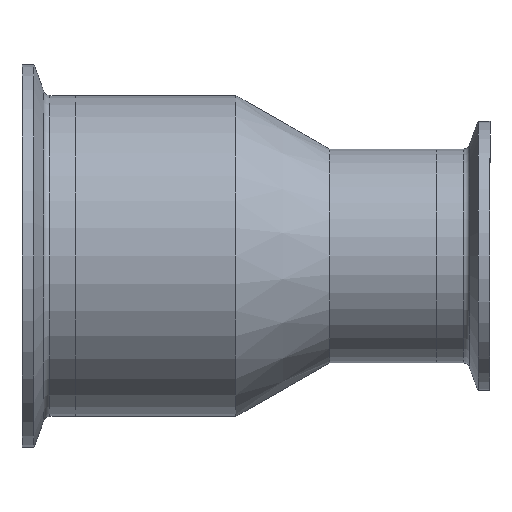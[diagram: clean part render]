
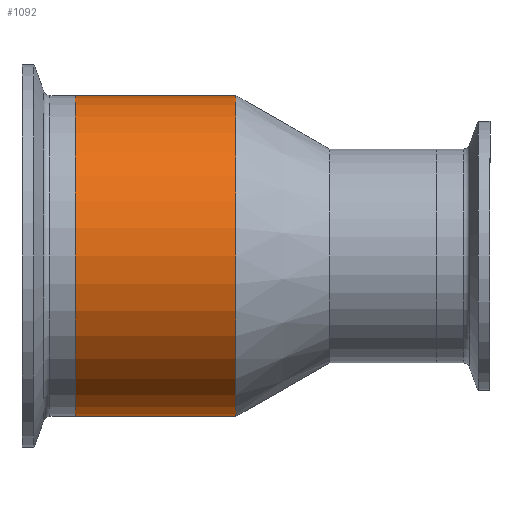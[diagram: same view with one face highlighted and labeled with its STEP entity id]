
A CAD part, front view. The second image highlights one B-rep face of the part: STEP entity #1092.
In plain terms, the highlighted cylindrical face has radius 38.1 mm (diameter 76.2 mm), a partial arc.
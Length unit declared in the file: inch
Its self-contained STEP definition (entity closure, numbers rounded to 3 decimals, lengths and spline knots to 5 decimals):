
#20 = VERTEX_POINT ( 'NONE', #374 ) ;
#24 = CARTESIAN_POINT ( 'NONE',  ( 1.5, 0., -1.5 ) ) ;
#25 = EDGE_CURVE ( 'NONE', #668, #1375, #552, .T. ) ;
#74 = CARTESIAN_POINT ( 'NONE',  ( 1.5, 0., 0. ) ) ;
#106 = ORIENTED_EDGE ( 'NONE', *, *, #1268, .T. ) ;
#140 = CIRCLE ( 'NONE', #1432, 1.5 ) ;
#173 = ORIENTED_EDGE ( 'NONE', *, *, #337, .T. ) ;
#252 = VECTOR ( 'NONE', #701, 39.37008 ) ;
#278 = AXIS2_PLACEMENT_3D ( 'NONE', #1628, #420, #405 ) ;
#337 = EDGE_CURVE ( 'NONE', #668, #972, #140, .T. ) ;
#353 = DIRECTION ( 'NONE',  ( -1., 0., 0. ) ) ;
#374 = CARTESIAN_POINT ( 'NONE',  ( 0., 0., 1.5 ) ) ;
#405 = DIRECTION ( 'NONE',  ( 0., 0., 1. ) ) ;
#420 = DIRECTION ( 'NONE',  ( -1., 0., 0. ) ) ;
#489 = CARTESIAN_POINT ( 'NONE',  ( 1.5, 0., 1.5 ) ) ;
#506 = ORIENTED_EDGE ( 'NONE', *, *, #1277, .F. ) ;
#547 = LINE ( 'NONE', #1217, #252 ) ;
#552 = LINE ( 'NONE', #1355, #1405 ) ;
#558 = AXIS2_PLACEMENT_3D ( 'NONE', #1711, #353, #802 ) ;
#602 = DIRECTION ( 'NONE',  ( -1., 0., 0. ) ) ;
#651 = EDGE_LOOP ( 'NONE', ( #1727, #173, #106, #506 ) ) ;
#668 = VERTEX_POINT ( 'NONE', #24 ) ;
#701 = DIRECTION ( 'NONE',  ( -1., 0., 0. ) ) ;
#802 = DIRECTION ( 'NONE',  ( 0., 0., 1. ) ) ;
#972 = VERTEX_POINT ( 'NONE', #489 ) ;
#1082 = CIRCLE ( 'NONE', #278, 1.5 ) ;
#1092 = ADVANCED_FACE ( 'NONE', ( #1303 ), #1565, .T. ) ;
#1217 = CARTESIAN_POINT ( 'NONE',  ( -2.51719, 0., 1.5 ) ) ;
#1268 = EDGE_CURVE ( 'NONE', #972, #20, #547, .T. ) ;
#1277 = EDGE_CURVE ( 'NONE', #1375, #20, #1082, .T. ) ;
#1303 = FACE_OUTER_BOUND ( 'NONE', #651, .T. ) ;
#1344 = DIRECTION ( 'NONE',  ( -1., 0., 0. ) ) ;
#1355 = CARTESIAN_POINT ( 'NONE',  ( -2.51719, 0., -1.5 ) ) ;
#1375 = VERTEX_POINT ( 'NONE', #1528 ) ;
#1405 = VECTOR ( 'NONE', #1344, 39.37008 ) ;
#1432 = AXIS2_PLACEMENT_3D ( 'NONE', #74, #602, #1685 ) ;
#1528 = CARTESIAN_POINT ( 'NONE',  ( 0., 0., -1.5 ) ) ;
#1565 = CYLINDRICAL_SURFACE ( 'NONE', #558, 1.5 ) ;
#1628 = CARTESIAN_POINT ( 'NONE',  ( 0., 0., 0. ) ) ;
#1685 = DIRECTION ( 'NONE',  ( 0., 0., 1. ) ) ;
#1711 = CARTESIAN_POINT ( 'NONE',  ( -2.51719, 0., 0. ) ) ;
#1727 = ORIENTED_EDGE ( 'NONE', *, *, #25, .F. ) ;
